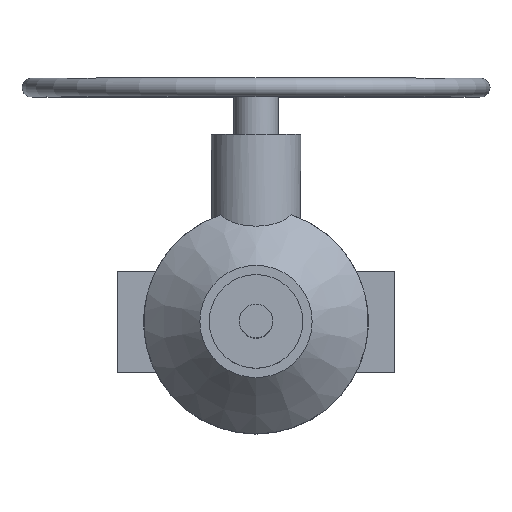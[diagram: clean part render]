
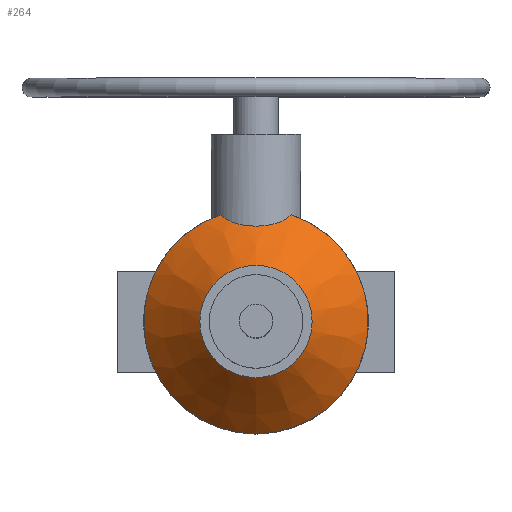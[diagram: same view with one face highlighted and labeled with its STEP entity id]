
A CAD part, top view. The second image highlights one B-rep face of the part: STEP entity #264.
In plain terms, the highlighted conical face has half-angle 45 degrees and reference radius 45 mm.
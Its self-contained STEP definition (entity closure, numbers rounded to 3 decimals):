
#264=ADVANCED_FACE('',(#1228,#1230),#1232,.T.);
#1228=FACE_BOUND('',#1229,.T.);
#1229=EDGE_LOOP('',(#2025,#2026,#2027,#2028));
#1230=FACE_OUTER_BOUND('',#1231,.T.);
#1231=EDGE_LOOP('',(#2029));
#1232=CONICAL_SURFACE('',#1233,45.,0.785);
#1233=AXIS2_PLACEMENT_3D('',#1234,#1235,#1236);
#1234=CARTESIAN_POINT('',(0.,0.,375.));
#1235=DIRECTION('',(0.,0.,-1.));
#1236=DIRECTION('',(0.,-1.,0.));
#2025=ORIENTED_EDGE('',*,*,#2488,.F.);
#2026=ORIENTED_EDGE('',*,*,#2489,.F.);
#2027=ORIENTED_EDGE('',*,*,#2490,.F.);
#2028=ORIENTED_EDGE('',*,*,#2491,.F.);
#2029=ORIENTED_EDGE('',*,*,#2473,.T.);
#2473=EDGE_CURVE('',#2765,#2765,#2766,.T.);
#2488=EDGE_CURVE('',#2791,#2792,#2793,.F.);
#2489=EDGE_CURVE('',#2794,#2791,#2795,.F.);
#2490=EDGE_CURVE('',#2796,#2794,#2797,.T.);
#2491=EDGE_CURVE('',#2792,#2796,#2798,.T.);
#2765=VERTEX_POINT('',#3304);
#2766=CIRCLE('',#3305,30.);
#2791=VERTEX_POINT('',#3363);
#2792=VERTEX_POINT('',#3364);
#2793=B_SPLINE_CURVE_WITH_KNOTS('',3,
(#3365,#3366,#3367,#3368,#3369,#3370,#3371,#3372,#3373,#3374,#3375,#3376,#3377,#3378,
#3379,#3380,#3381,#3382,#3383,#3384,#3385,#3386,#3387,#3388,#3389,#3390,#3391,#3392,
#3393,#3394,#3395,#3396,#3397,#3398,#3399,#3400,#3401,#3402,#3403,#3404,#3405,#3406,
#3407,#3408),
.UNSPECIFIED.,.F.,.F.,
(4,1,1,1,1,1,1,1,1,1,1,1,1,1,1,1,1,1,1,1,1,1,1,1,1,1,1,1,1,1,1,1,1,1,1,1,1,1,1,1,
1,4),
(0.,0.02,0.041,0.061,0.082,0.102,
0.122,0.143,0.163,0.183,0.204,
0.224,0.245,0.266,0.287,0.308,
0.329,0.351,0.375,0.401,0.441,
0.481,0.521,0.551,0.581,0.621,
0.661,0.701,0.735,0.766,0.794,
0.814,0.834,0.853,0.873,0.892,
0.91,0.929,0.947,0.965,0.982,
1.),
.UNSPECIFIED.);
#2794=VERTEX_POINT('',#3409);
#2795=B_SPLINE_CURVE_WITH_KNOTS('',3,
(#3410,#3411,#3412,#3413,#3414,#3415,#3416,#3417,#3418,#3419,#3420,#3421,#3422,#3423,
#3424,#3425,#3426,#3427,#3428,#3429,#3430,#3431,#3432,#3433,#3434,#3435,#3436,#3437,
#3438,#3439,#3440,#3441,#3442,#3443,#3444,#3445,#3446,#3447,#3448,#3449,#3450,#3451,
#3452),
.UNSPECIFIED.,.F.,.F.,
(4,1,1,1,1,1,1,1,1,1,1,1,1,1,1,1,1,1,1,1,1,1,1,1,1,1,1,1,1,1,1,1,1,1,1,1,1,1,1,1,
4),
(0.,0.024,0.047,0.071,0.095,0.118,
0.145,0.173,0.216,0.258,0.3,
0.337,0.371,0.403,0.43,0.459,
0.501,0.543,0.584,0.62,0.652,
0.681,0.703,0.724,0.744,0.764,
0.783,0.802,0.82,0.838,0.855,
0.871,0.887,0.903,0.918,0.932,
0.946,0.96,0.974,0.987,1.),
.UNSPECIFIED.);
#2796=VERTEX_POINT('',#3453);
#2797=CIRCLE('',#3454,60.);
#2798=CIRCLE('',#3458,60.);
#3304=CARTESIAN_POINT('',(0.,-30.,390.));
#3305=AXIS2_PLACEMENT_3D('',#3306,#3307,#3308);
#3306=CARTESIAN_POINT('',(0.,0.,390.));
#3307=DIRECTION('',(0.,0.,-1.));
#3308=DIRECTION('',(0.,-1.,0.));
#3363=CARTESIAN_POINT('',(0.,51.,369.));
#3364=CARTESIAN_POINT('',(18.735,57.,360.));
#3365=CARTESIAN_POINT('',(18.735,57.,360.));
#3366=CARTESIAN_POINT('',(18.653,56.919,360.102));
#3367=CARTESIAN_POINT('',(18.487,56.759,360.306));
#3368=CARTESIAN_POINT('',(18.232,56.523,360.61));
#3369=CARTESIAN_POINT('',(17.97,56.291,360.91));
#3370=CARTESIAN_POINT('',(17.702,56.064,361.208));
#3371=CARTESIAN_POINT('',(17.428,55.841,361.502));
#3372=CARTESIAN_POINT('',(17.147,55.623,361.794));
#3373=CARTESIAN_POINT('',(16.859,55.409,362.083));
#3374=CARTESIAN_POINT('',(16.564,55.199,362.369));
#3375=CARTESIAN_POINT('',(16.262,54.994,362.652));
#3376=CARTESIAN_POINT('',(15.953,54.793,362.932));
#3377=CARTESIAN_POINT('',(15.636,54.596,363.21));
#3378=CARTESIAN_POINT('',(15.31,54.403,363.484));
#3379=CARTESIAN_POINT('',(14.976,54.214,363.756));
#3380=CARTESIAN_POINT('',(14.633,54.029,364.025));
#3381=CARTESIAN_POINT('',(14.281,53.848,364.291));
#3382=CARTESIAN_POINT('',(13.919,53.672,364.553));
#3383=CARTESIAN_POINT('',(13.534,53.493,364.822));
#3384=CARTESIAN_POINT('',(13.109,53.306,365.106));
#3385=CARTESIAN_POINT('',(12.567,53.083,365.451));
#3386=CARTESIAN_POINT('',(11.915,52.835,365.84));
#3387=CARTESIAN_POINT('',(11.159,52.577,366.254));
#3388=CARTESIAN_POINT('',(10.444,52.357,366.613));
#3389=CARTESIAN_POINT('',(9.777,52.171,366.922));
#3390=CARTESIAN_POINT('',(9.098,51.998,367.213));
#3391=CARTESIAN_POINT('',(8.34,51.825,367.51));
#3392=CARTESIAN_POINT('',(7.502,51.657,367.803));
#3393=CARTESIAN_POINT('',(6.695,51.517,368.052));
#3394=CARTESIAN_POINT('',(5.942,51.403,368.257));
#3395=CARTESIAN_POINT('',(5.267,51.314,368.418));
#3396=CARTESIAN_POINT('',(4.687,51.247,368.54));
#3397=CARTESIAN_POINT('',(4.184,51.196,368.634));
#3398=CARTESIAN_POINT('',(3.741,51.156,368.708));
#3399=CARTESIAN_POINT('',(3.304,51.121,368.773));
#3400=CARTESIAN_POINT('',(2.873,51.091,368.829));
#3401=CARTESIAN_POINT('',(2.447,51.066,368.876));
#3402=CARTESIAN_POINT('',(2.028,51.045,368.915));
#3403=CARTESIAN_POINT('',(1.614,51.028,368.947));
#3404=CARTESIAN_POINT('',(1.206,51.015,368.971));
#3405=CARTESIAN_POINT('',(0.8,51.006,368.988));
#3406=CARTESIAN_POINT('',(0.399,51.001,368.998));
#3407=CARTESIAN_POINT('',(0.133,51.,369.));
#3408=CARTESIAN_POINT('',(0.,51.,369.));
#3409=CARTESIAN_POINT('',(-18.735,57.,360.));
#3410=CARTESIAN_POINT('',(0.,51.,369.));
#3411=CARTESIAN_POINT('',(-0.179,51.,369.));
#3412=CARTESIAN_POINT('',(-0.536,51.002,368.996));
#3413=CARTESIAN_POINT('',(-1.071,51.012,368.978));
#3414=CARTESIAN_POINT('',(-1.604,51.027,368.948));
#3415=CARTESIAN_POINT('',(-2.137,51.05,368.907));
#3416=CARTESIAN_POINT('',(-2.688,51.079,368.851));
#3417=CARTESIAN_POINT('',(-3.277,51.118,368.778));
#3418=CARTESIAN_POINT('',(-4.,51.177,368.669));
#3419=CARTESIAN_POINT('',(-4.836,51.261,368.514));
#3420=CARTESIAN_POINT('',(-5.759,51.376,368.305));
#3421=CARTESIAN_POINT('',(-6.634,51.506,368.071));
#3422=CARTESIAN_POINT('',(-7.442,51.647,367.822));
#3423=CARTESIAN_POINT('',(-8.165,51.789,367.572));
#3424=CARTESIAN_POINT('',(-8.806,51.93,367.329));
#3425=CARTESIAN_POINT('',(-9.401,52.074,367.085));
#3426=CARTESIAN_POINT('',(-10.056,52.246,366.797));
#3427=CARTESIAN_POINT('',(-10.798,52.462,366.44));
#3428=CARTESIAN_POINT('',(-11.601,52.724,366.016));
#3429=CARTESIAN_POINT('',(-12.342,52.994,365.589));
#3430=CARTESIAN_POINT('',(-13.005,53.261,365.175));
#3431=CARTESIAN_POINT('',(-13.579,53.512,364.793));
#3432=CARTESIAN_POINT('',(-14.055,53.737,364.456));
#3433=CARTESIAN_POINT('',(-14.457,53.938,364.159));
#3434=CARTESIAN_POINT('',(-14.801,54.119,363.894));
#3435=CARTESIAN_POINT('',(-15.133,54.302,363.63));
#3436=CARTESIAN_POINT('',(-15.451,54.485,363.367));
#3437=CARTESIAN_POINT('',(-15.755,54.669,363.106));
#3438=CARTESIAN_POINT('',(-16.044,54.851,362.851));
#3439=CARTESIAN_POINT('',(-16.318,55.032,362.6));
#3440=CARTESIAN_POINT('',(-16.577,55.209,362.356));
#3441=CARTESIAN_POINT('',(-16.823,55.384,362.118));
#3442=CARTESIAN_POINT('',(-17.055,55.554,361.887));
#3443=CARTESIAN_POINT('',(-17.276,55.723,361.661));
#3444=CARTESIAN_POINT('',(-17.486,55.888,361.44));
#3445=CARTESIAN_POINT('',(-17.688,56.053,361.223));
#3446=CARTESIAN_POINT('',(-17.88,56.214,361.011));
#3447=CARTESIAN_POINT('',(-18.064,56.374,360.803));
#3448=CARTESIAN_POINT('',(-18.24,56.532,360.599));
#3449=CARTESIAN_POINT('',(-18.411,56.688,360.397));
#3450=CARTESIAN_POINT('',(-18.575,56.844,360.198));
#3451=CARTESIAN_POINT('',(-18.682,56.948,360.066));
#3452=CARTESIAN_POINT('',(-18.735,57.,360.));
#3453=CARTESIAN_POINT('',(0.,-60.,360.));
#3454=AXIS2_PLACEMENT_3D('',#3455,#3456,#3457);
#3455=CARTESIAN_POINT('',(0.,0.,360.));
#3456=DIRECTION('',(0.,0.,-1.));
#3457=DIRECTION('',(0.,-1.,0.));
#3458=AXIS2_PLACEMENT_3D('',#3459,#3460,#3461);
#3459=CARTESIAN_POINT('',(0.,0.,360.));
#3460=DIRECTION('',(0.,0.,-1.));
#3461=DIRECTION('',(0.312,0.95,0.));
